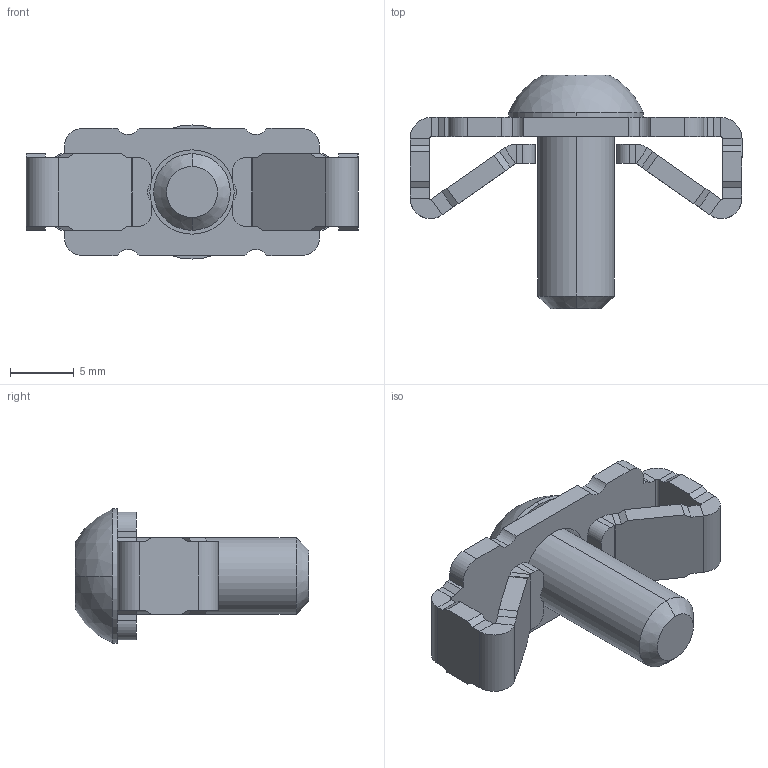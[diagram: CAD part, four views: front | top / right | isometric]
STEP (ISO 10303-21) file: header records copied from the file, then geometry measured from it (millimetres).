
FILE_DESCRIPTION (( 'STEP AP214' ), '1' );
FILE_NAME ('J3S.step', '2017-05-24T07:46:22', ( 'admin' ), ( '' ), 'SwSTEP 2.0', 'SolidWorks 2014', '' );
FILE_SCHEMA (( 'AUTOMOTIVE_DESIGN' ));
Length unit declared in the file: millimetre
Products named in the file (3): B0615; J3SH; J3S
Assembly tree (2 placements, depth 2):
  J3S
    J3SH
    B0615
Bounding box: 26 x 18.3 x 10.5 mm (x, y, z)
Volume: 1137.5 mm3; surface area: 1488.6 mm2
Topology: 2 solids, 2 shells, 151 faces, 380 edges, 233 vertices
Faces by surface type: plane 111, cylinder 34, cone 4, sphere 2
Entity records: 4554 total; most frequent: DIRECTION 772, CARTESIAN_POINT 767, ORIENTED_EDGE 756, EDGE_CURVE 378, LINE 296, VECTOR 296, AXIS2_PLACEMENT_3D 238, VERTEX_POINT 233
